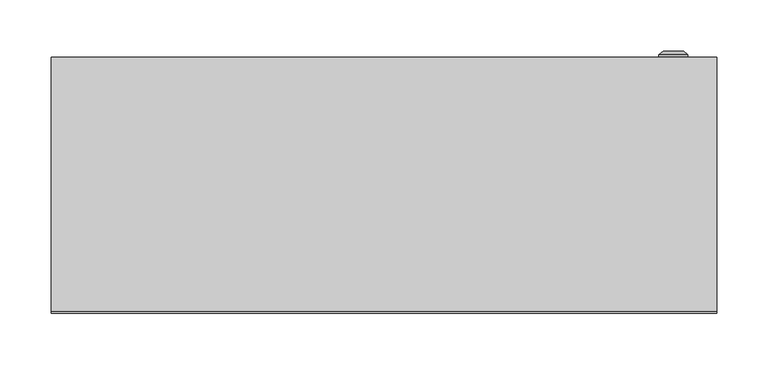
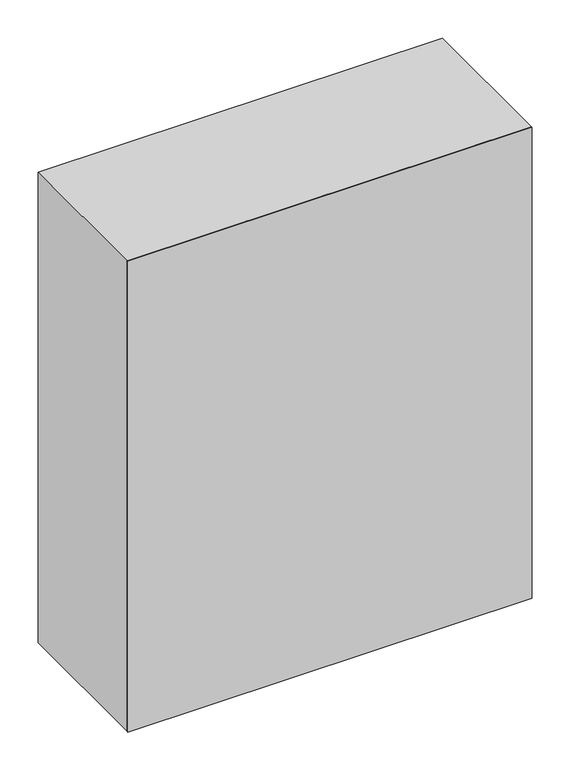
"""IFC4 building model written with IfcOpenShell, lengths in millimetres: proxy geometry, ЩМП : ЩМП-4-0_800х650х250."""

import ifcopenshell
import ifcopenshell.guid

model = None  # the IFC model being written
_history = None  # IfcOwnerHistory: only IFC2X3 demands one
_inside = {}  # id of a spatial element -> (the spatial element, [elements in it])
_under = {}  # id of a project, library or spatial element -> (it, [spatial elements below it])
_declared = {}  # id of a project -> (the project, [libraries it declares])
_typed = {}  # id of a type object -> (the type object, [elements of that type])
_made_of = {}  # id of a material, layer set ... -> (it, [elements and type objects made of it])


def new_model(schema):
    """Start an empty IFC model of exactly this schema.

    Asked for "IFC4X3", IfcOpenShell would pick the latest addendum, in which some entities
    have other attributes; the version numbers below select the first issue.
    IFC2X3 requires an IfcOwnerHistory on every rooted entity: one is made here for all.
    """
    global model, _history
    if schema == "IFC4X3":
        model = ifcopenshell.file(schema_version=(4, 3, 0, 0))
    else:
        model = ifcopenshell.file(schema=schema)
    _inside.clear()
    _under.clear()
    _declared.clear()
    _typed.clear()
    _made_of.clear()
    _history = None
    if model.schema == "IFC2X3":
        org = make("IfcOrganization", Name="unknown")
        user = make(
            "IfcPersonAndOrganization",
            ThePerson=make("IfcPerson", FamilyName="unknown"),
            TheOrganization=org,
        )
        app = make(
            "IfcApplication",
            ApplicationDeveloper=org,
            Version="unknown",
            ApplicationFullName="unknown",
            ApplicationIdentifier="unknown",
        )
        _history = make(
            "IfcOwnerHistory",
            OwningUser=user,
            OwningApplication=app,
            ChangeAction="ADDED",
            CreationDate=0,
        )
    return model


def make(cls, **values):
    """One entity of the class cls with the attributes given. An attribute that is None is left unset."""
    return model.create_entity(
        cls, **{name: value for name, value in values.items() if value is not None}
    )


def rooted(cls, **values):
    """An entity with a GlobalId (a new one), such as an element, a storey or a relation."""
    return make(cls, GlobalId=ifcopenshell.guid.new(), OwnerHistory=_history, **values)


def si_unit(unit_type, name, prefix=None):
    """IfcSIUnit, for example si_unit("LENGTHUNIT", "METRE", prefix="MILLI")."""
    return make("IfcSIUnit", UnitType=unit_type, Prefix=prefix, Name=name)


def assignment(units):
    """IfcUnitAssignment: the units of a project."""
    return None if units is None else make("IfcUnitAssignment", Units=units)


def point(xyz):
    """IfcCartesianPoint."""
    return None if xyz is None else make("IfcCartesianPoint", Coordinates=xyz)


def direction(xyz):
    """IfcDirection."""
    return None if xyz is None else make("IfcDirection", DirectionRatios=xyz)


def frame(location, z_axis=None, x_axis=None):
    """IfcAxis2Placement3D, a coordinate frame: its origin and axes. An axis left out is left unset."""
    return make(
        "IfcAxis2Placement3D",
        Location=point(location),
        Axis=direction(z_axis),
        RefDirection=direction(x_axis),
    )


def origin():
    """The frame at (0, 0, 0) with its axes left unset."""
    return frame((0.0, 0.0, 0.0))


def origin_with_axes():
    """The frame at (0, 0, 0) with the z axis (0, 0, 1) and the x axis (1, 0, 0) written out."""
    return frame((0.0, 0.0, 0.0), z_axis=(0.0, 0.0, 1.0), x_axis=(1.0, 0.0, 0.0))


def place(relative_to, where):
    """IfcLocalPlacement: puts the frame where relative to a parent placement (None: the world)."""
    return make(
        "IfcLocalPlacement", PlacementRelTo=relative_to, RelativePlacement=where
    )


def context(
    kind, dimensions, precision=None, world=None, true_north=None, identifier=None
):
    """IfcGeometricRepresentationContext, for example the 3D "Model" context."""
    return make(
        "IfcGeometricRepresentationContext",
        ContextIdentifier=identifier,
        ContextType=kind,
        CoordinateSpaceDimension=dimensions,
        Precision=precision,
        WorldCoordinateSystem=world,
        TrueNorth=true_north,
    )


def project(units=None, contexts=None):
    """IfcProject with its units and contexts."""
    return rooted(
        "IfcProject",
        Name="project",
        RepresentationContexts=contexts,
        UnitsInContext=assignment(units),
    )


def spatial(cls, under=None, at=None, **own):
    """A site, building, storey or space (cls), placed at a placement, below another one or the project."""
    s = rooted(cls, ObjectPlacement=at, **own)
    if under is not None:
        _under.setdefault(under.id(), (under, []))[1].append(s)
    return s


def polyline(points):
    """IfcPolyline through the points."""
    return make("IfcPolyline", Points=[point(p) for p in points])


def circle_curve(where, radius):
    """IfcCircle in the frame where."""
    return make("IfcCircle", Position=where, Radius=radius)


def outline(outer, holes=None, kind="AREA"):
    """IfcArbitraryClosedProfileDef: a profile drawn as a closed curve; with holes, ...WithVoids."""
    if holes is None:
        return make("IfcArbitraryClosedProfileDef", ProfileType=kind, OuterCurve=outer)
    return make(
        "IfcArbitraryProfileDefWithVoids",
        ProfileType=kind,
        OuterCurve=outer,
        InnerCurves=holes,
    )


def extrude(swept, where, along, depth):
    """IfcExtrudedAreaSolid: the profile swept, set in the frame where, extruded along a direction by depth."""
    return make(
        "IfcExtrudedAreaSolid",
        SweptArea=swept,
        Position=where,
        ExtrudedDirection=direction(along),
        Depth=depth,
    )


def shape(context_of_items, identifier, shape_type, items):
    """IfcShapeRepresentation: the items that make up one representation, for example the "Body"."""
    return make(
        "IfcShapeRepresentation",
        ContextOfItems=context_of_items,
        RepresentationIdentifier=identifier,
        RepresentationType=shape_type,
        Items=items,
    )


def source(mapping_origin, context_of_items, identifier, shape_type, items):
    """IfcRepresentationMap: a shape defined once, which mapped items show again and again."""
    return make(
        "IfcRepresentationMap",
        MappingOrigin=mapping_origin,
        MappedRepresentation=shape(context_of_items, identifier, shape_type, items),
    )


def transform(
    local_origin,
    x_axis=None,
    y_axis=None,
    z_axis=None,
    scale=None,
    scale2=None,
    scale3=None,
    uniform=True,
):
    """IfcCartesianTransformationOperator3D, or its non-uniform kind. x_axis, y_axis, z_axis: its Axis1, 2, 3."""
    if uniform:
        return make(
            "IfcCartesianTransformationOperator3D",
            Axis1=direction(x_axis),
            Axis2=direction(y_axis),
            LocalOrigin=point(local_origin),
            Scale=scale,
            Axis3=direction(z_axis),
        )
    return make(
        "IfcCartesianTransformationOperator3DnonUniform",
        Axis1=direction(x_axis),
        Axis2=direction(y_axis),
        LocalOrigin=point(local_origin),
        Scale=scale,
        Axis3=direction(z_axis),
        Scale2=scale2,
        Scale3=scale3,
    )


def mapped(mapping_source, mapping_target):
    """IfcMappedItem: shows the shape of a source again, moved by a transform."""
    return make(
        "IfcMappedItem", MappingSource=mapping_source, MappingTarget=mapping_target
    )


def made_of(thing, what):
    """Note that an element or type object is made of a material, layer set ...; save() writes the relation."""
    if what is not None:
        _made_of.setdefault(what.id(), (what, []))[1].append(thing)
    return thing


def element(
    cls,
    number,
    at=None,
    inside=None,
    cuts=None,
    type_object=None,
    material=None,
    context=None,
    identifier="Body",
    shape_type=None,
    held_by="IfcProductDefinitionShape",
    body=None,
    shapes=None,
    **own,
):
    """One element of the class cls, such as IfcWall. Its Tag is "e" and its number.

    at: its placement. inside: the storey or other place that contains it. cuts: it is an
    opening in that element (IfcRelVoidsElement). A single representation is given by context,
    identifier, shape_type and body (its items); several are given by shapes. held_by: the class
    of the entity that holds the representations. save() writes the other relations.
    """
    e = rooted(cls, Tag="e%d" % number, ObjectPlacement=at, **own)
    if body is not None:
        shapes = [shape(context, identifier, shape_type, body)]
    if shapes is not None:
        e.Representation = make(held_by, Representations=shapes)
    if inside is not None:
        _inside.setdefault(inside.id(), (inside, []))[1].append(e)
    if cuts is not None:
        rooted(
            "IfcRelVoidsElement", RelatingBuildingElement=cuts, RelatedOpeningElement=e
        )
    if type_object is not None:
        _typed.setdefault(type_object.id(), (type_object, []))[1].append(e)
    return made_of(e, material)


def aggregate(whole, parts):
    """IfcRelAggregates: a whole, such as a stair, and the parts it consists of."""
    return rooted("IfcRelAggregates", RelatingObject=whole, RelatedObjects=parts)


def save(model, path):
    """Write the relations noted so far, then the file.

    IfcRelAggregates (storeys below a building ...), IfcRelContainedInSpatialStructure (elements
    in a storey), IfcRelDefinesByType, IfcRelAssociatesMaterial and IfcRelDeclares: one each for
    every whole, place, type object, material and project.
    """
    for whole, parts in _under.values():
        aggregate(whole, parts)
    for where, things in _inside.values():
        rooted(
            "IfcRelContainedInSpatialStructure",
            RelatedElements=things,
            RelatingStructure=where,
        )
    for kind, things in _typed.values():
        rooted("IfcRelDefinesByType", RelatedObjects=things, RelatingType=kind)
    for what, things in _made_of.values():
        rooted("IfcRelAssociatesMaterial", RelatedObjects=things, RelatingMaterial=what)
    for by, libraries in _declared.values():
        rooted("IfcRelDeclares", RelatingContext=by, RelatedDefinitions=libraries)
    model.write(path)


def plane_surface(at):
    """IfcPlane: the flat surface through the origin of the frame at, square to its z axis."""
    return make("IfcPlane", Position=at)


def cylinder_surface(at, radius):
    """IfcCylindricalSurface: all points at the distance radius from the z axis of the frame at."""
    return make("IfcCylindricalSurface", Position=at, Radius=radius)


def revolved_surface(curve, axis_point, axis_direction):
    """IfcSurfaceOfRevolution: the curve turned about the line through axis_point along axis_direction."""
    return make(
        "IfcSurfaceOfRevolution",
        SweptCurve=make("IfcArbitraryOpenProfileDef", ProfileType="CURVE", Curve=curve),
        AxisPosition=make("IfcAxis1Placement", Location=point(axis_point), Axis=direction(axis_direction)),
    )


def advanced_brep(points, edges, surfaces, faces):
    """IfcAdvancedBrep: a solid bounded by faces that lie on surfaces and meet in shared edges.

    An edge is (start, end): straight between two places in points (the first is 0);
    or (start, end, curve); or (start, end, curve, False) where it runs against its curve.
    A face is (place in surfaces, loops), or (place, loops, False) where it looks against
    its surface's normal. A loop lists edges by number (the first is 1), with a minus sign
    where the edge is run from its end to its start. The first loop is the outer one.
    """
    corners = [point(p) for p in points]
    vertices = [make("IfcVertexPoint", VertexGeometry=c) for c in corners]
    made = []
    for start, end, *more in edges:
        made.append(
            make(
                "IfcEdgeCurve",
                EdgeStart=vertices[start],
                EdgeEnd=vertices[end],
                EdgeGeometry=more[0] if more else make("IfcPolyline", Points=[corners[start], corners[end]]),
                SameSense=more[1] if len(more) > 1 else True,
            )
        )
    hull = []
    for where, loops, *sense in faces:
        bounds = []
        for j, loop in enumerate(loops):
            ring = [make("IfcOrientedEdge", EdgeElement=made[abs(k) - 1], Orientation=k > 0) for k in loop]
            bounds.append(
                make(
                    "IfcFaceOuterBound" if j == 0 else "IfcFaceBound",
                    Bound=make("IfcEdgeLoop", EdgeList=ring),
                    Orientation=True,
                )
            )
        hull.append(make("IfcAdvancedFace", Bounds=bounds, FaceSurface=surfaces[where], SameSense=sense[0] if sense else True))
    return make("IfcAdvancedBrep", Outer=make("IfcClosedShell", CfsFaces=hull))


def electrical_equipment_f44a7fef(model_context):
    return source(origin(), model_context, "Body", "SolidModel", [
        advanced_brep(
        [(268.169873, 250.0, 400.0), (296.830127, 250.0, 400.0), (282.5, 250.0, 400.0), (268.169873, 252.366592, 400.0), (296.830127, 252.366592, 400.0), (272.5, 256.0, 400.0), (292.5, 256.0, 400.0), (280.6080471, 256.0, 400.0), (284.3919529, 256.0, 400.0), (280.6080471, 254.9822294, 400.0), (284.3919529, 254.9822294, 400.0), (282.5, 254.9822294, 400.0)],
        [
            (0, 1, circle_curve(frame((282.5, 250.0, 400.0), z_axis=(0.0, -1.0, 0.0), x_axis=(1.0, 0.0, 0.0)), 14.330127)),
            (1, 2),
            (2, 0),
            (1, 0, circle_curve(frame((282.5, 250.0, 400.0), z_axis=(0.0, -1.0, 0.0), x_axis=(1.0, 0.0, 0.0)), 14.330127)),
            (3, 4, circle_curve(frame((282.5, 252.366592, 400.0), z_axis=(0.0, -1.0, 0.0), x_axis=(1.0, 0.0, 0.0)), 14.330127)),
            (4, 1),
            (0, 3),
            (4, 3, circle_curve(frame((282.5, 252.366592, 400.0), z_axis=(0.0, -1.0, 0.0), x_axis=(1.0, 0.0, 0.0)), 14.330127)),
            (5, 6, circle_curve(frame((282.5, 256.0, 400.0), z_axis=(0.0, -1.0, 0.0), x_axis=(1.0, 0.0, 0.0)), 10.0)),
            (6, 4),
            (3, 5),
            (6, 5, circle_curve(frame((282.5, 256.0, 400.0), z_axis=(0.0, -1.0, 0.0), x_axis=(1.0, 0.0, 0.0)), 10.0)),
            (7, 8, circle_curve(frame((282.5, 256.0, 400.0), z_axis=(0.0, -1.0, 0.0), x_axis=(1.0, 0.0, 0.0)), 1.8919529)),
            (8, 6),
            (5, 7),
            (8, 7, circle_curve(frame((282.5, 256.0, 400.0), z_axis=(0.0, -1.0, 0.0), x_axis=(1.0, 0.0, 0.0)), 1.8919529)),
            (9, 10, circle_curve(frame((282.5, 254.9822294, 400.0), z_axis=(0.0, -1.0, 0.0), x_axis=(1.0, 0.0, 0.0)), 1.8919529)),
            (10, 8),
            (7, 9),
            (10, 9, circle_curve(frame((282.5, 254.9822294, 400.0), z_axis=(0.0, -1.0, 0.0), x_axis=(1.0, 0.0, 0.0)), 1.8919529)),
            (11, 10),
            (9, 11),
        ],
        [
            plane_surface(frame((282.5, 250.0, 400.0), z_axis=(0.0, -1.0, 0.0), x_axis=(1.0, 0.0, 0.0))),
            cylinder_surface(frame((282.5, 263.1348851, 400.0), z_axis=(0.0, 1.0, 0.0), x_axis=(1.0, 0.0, 0.0)), 14.330127),
            revolved_surface(polyline([(296.830127, 252.366592, 400.0), (292.5, 256.0, 400.0)]), (282.5, 263.1348851, 400.0), (0.0, 1.0, 0.0)),
            plane_surface(frame((282.5, 256.0, 400.0), z_axis=(0.0, 1.0, 0.0), x_axis=(1.0, 0.0, 0.0))),
            revolved_surface(polyline([(284.3919529, 256.0, 400.0), (284.3919529, 254.9822294, 400.0)]), (282.5, 263.1348851, 400.0), (0.0, 1.0, 0.0)),
            plane_surface(frame((282.5, 254.9822294, 400.0), z_axis=(0.0, 1.0, 0.0), x_axis=(1.0, 0.0, 0.0))),
        ],
        [
            (0, [[1, 2, 3]]),
            (0, [[4, -3, -2]]),
            (1, [[5, 6, -1, 7]]),
            (1, [[8, -7, -4, -6]]),
            (2, [[9, 10, -5, 11]]),
            (2, [[12, -11, -8, -10]]),
            (3, [[13, 14, -9, 15]]),
            (3, [[16, -15, -12, -14]]),
            (4, [[17, 18, -13, 19]]),
            (4, [[20, -19, -16, -18]]),
            (5, [[21, -17, 22]]),
            (5, [[-22, -20, -21]]),
        ],
    ),
        extrude(outline(polyline([(307.75, 225.0), (-307.75, 225.0), (-307.75, 250.0), (307.75, 250.0), (307.75, 225.0)])), frame((0.0, 0.0, 18.5), z_axis=(0.0, 0.0, 1.0), x_axis=(1.0, 0.0, 0.0)), (0.0, 0.0, 1.0), 763.0),
        extrude(outline(polyline([(800.0, -325.0033905), (0.0, -325.0033905), (0.0, 324.9966095), (800.0, 324.9966095), (800.0, -325.0033905)]), holes=[polyline([(765.0, -292.5033905), (765.0, 292.4966095), (35.0, 292.4966095), (35.0, -292.5033905), (765.0, -292.5033905)])]), frame((0.0, 2.0, 0.0), z_axis=(0.0, 1.0, 0.0), x_axis=(0.0, 0.0, 1.0)), (0.0, 0.0, 1.0), 248.0),
        extrude(outline(polyline([(325.0, 0.0), (-325.0, 0.0), (-325.0, 2.0), (325.0, 2.0), (325.0, 0.0)])), origin_with_axes(), (0.0, 0.0, 1.0), 800.0),
    ])


if __name__ == "__main__":
    model = new_model("IFC4")
    model_context = context("Model", 3, world=origin())
    ifc_project = project(units=[si_unit("LENGTHUNIT", "METRE", prefix="MILLI")], contexts=[model_context])
    site = spatial("IfcSite", under=ifc_project)
    building = spatial("IfcBuilding", under=site)
    placement = place(None, origin())
    electrical_equipment_shape = electrical_equipment_f44a7fef(model_context)
    element("IfcBuildingElementProxy", 1, Name="ЩМП : ЩМП-4-0_800х650х250", ObjectType="ЩМП : ЩМП-4-0_800х650х250", at=placement, inside=building, context=model_context, shape_type="MappedRepresentation", body=[
        mapped(electrical_equipment_shape, transform((0.0, 0.0, 0.0), x_axis=(1.0, 0.0, 0.0), y_axis=(0.0, 1.0, 0.0), z_axis=(0.0, 0.0, 1.0))),
    ])
    save(model, "model.ifc")
